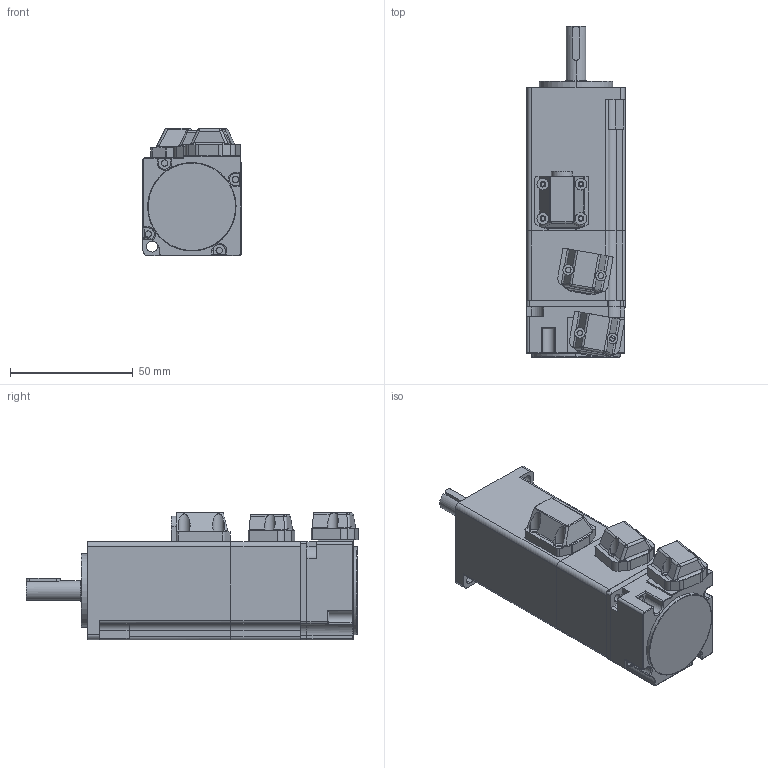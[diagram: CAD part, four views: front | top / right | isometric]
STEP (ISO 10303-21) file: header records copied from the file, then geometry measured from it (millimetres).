
FILE_DESCRIPTION (( 'STEP AP203' ), '1' );
FILE_NAME ('TSNA-04J0330A-48Z.STEP', '2023-08-31T03:48:24', ( '' ), ( '' ), 'SwSTEP 2.0', 'SolidWorks 2020', '' );
FILE_SCHEMA (( 'CONFIG_CONTROL_DESIGN' ));
Length unit declared in the file: millimetre
Products named in the file (10): 40____________.STEP.STEP; TSNA-04J0330A-48Z; 40____.STEP.STEP; S40-H58.5-002.STEP.STEP; 3x14__.STEP.STEP; ____.STEP.STEP; __________.STEP; 40____________-0.STEP.STEP; __.STEP.STEP; 40伺服电机刹车外壳
Assembly tree (9 placements, depth 2):
  TSNA-04J0330A-48Z
    S40-H58.5-002.STEP.STEP
    40____________.STEP.STEP
    40____________-0.STEP.STEP
    40____.STEP.STEP
    ____.STEP.STEP
    __.STEP.STEP
    3x14__.STEP.STEP
    __________.STEP
    40伺服电机刹车外壳
Bounding box: 40.09 x 135.34 x 52.05 mm (x, y, z)
Volume: 73682.3 mm3; surface area: 49369.9 mm2
Topology: 9 solids, 9 shells, 552 faces, 1414 edges, 884 vertices
Faces by surface type: cylinder 281, plane 181, bspline 40, cone 38, torus 8, sphere 4
Entity records: 19844 total; most frequent: CARTESIAN_POINT 5478, DIRECTION 2828, ORIENTED_EDGE 2778, EDGE_CURVE 1389, AXIS2_PLACEMENT_3D 1080, VERTEX_POINT 884, LINE 668, VECTOR 668
